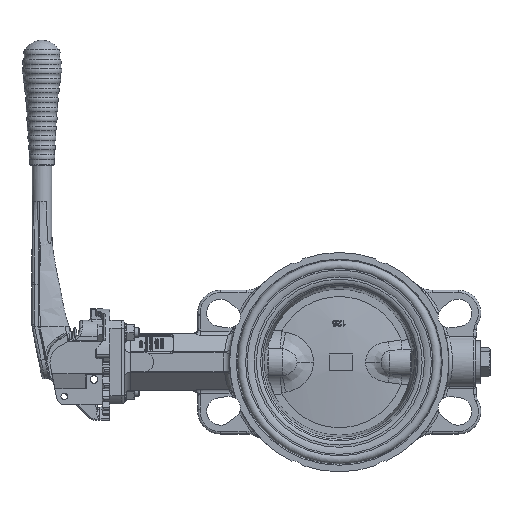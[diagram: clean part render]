
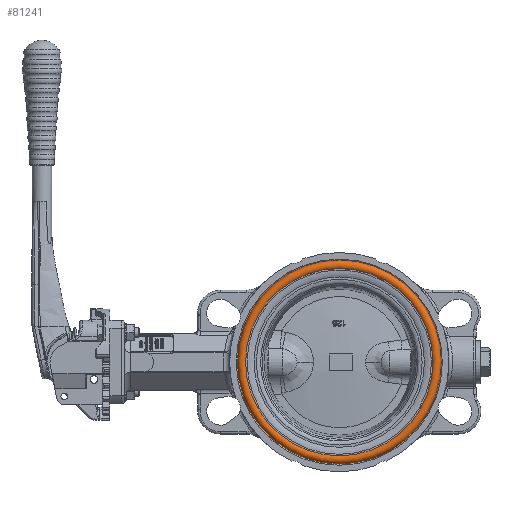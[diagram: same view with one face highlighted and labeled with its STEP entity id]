
A CAD part, left-side view. The second image highlights one B-rep face of the part: STEP entity #81241.
In plain terms, the highlighted toroidal (fillet/blend) face has major radius 81.505 mm and minor radius 4 mm.
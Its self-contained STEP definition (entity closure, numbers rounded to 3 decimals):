
#81134=CARTESIAN_POINT('',(-26.945,0.,-85.5));
#81135=VERTEX_POINT('',#81134);
#81136=CARTESIAN_POINT('',(-26.945,0.,0.));
#81137=DIRECTION('',(1.0,0.0,0.0));
#81138=DIRECTION('',(0.0,0.0,-1.0));
#81139=AXIS2_PLACEMENT_3D('',#81136,#81137,#81138);
#81140=CIRCLE('',#81139,85.5);
#81141=EDGE_CURVE('',#81135,#81135,#81140,.T.);
#81215=CARTESIAN_POINT('',(-29.5,0.,-78.6));
#81216=VERTEX_POINT('',#81215);
#81217=CARTESIAN_POINT('',(-29.5,0.,0.));
#81218=DIRECTION('',(1.0,0.0,0.0));
#81219=DIRECTION('',(0.0,0.0,-1.0));
#81220=AXIS2_PLACEMENT_3D('',#81217,#81218,#81219);
#81221=CIRCLE('',#81220,78.6);
#81222=EDGE_CURVE('',#81216,#81216,#81221,.T.);
#81230=CARTESIAN_POINT('',(-26.75,0.,0.));
#81231=DIRECTION('',(1.,0.0,0.));
#81232=DIRECTION('',(0.0,0.0,-1.0));
#81233=AXIS2_PLACEMENT_3D('',#81230,#81231,#81232);
#81234=TOROIDAL_SURFACE('',#81233,81.505,4.);
#81235=ORIENTED_EDGE('',*,*,#81141,.F.);
#81236=EDGE_LOOP('',(#81235));
#81237=FACE_OUTER_BOUND('',#81236,.T.);
#81238=ORIENTED_EDGE('',*,*,#81222,.T.);
#81239=EDGE_LOOP('',(#81238));
#81240=FACE_BOUND('',#81239,.T.);
#81241=ADVANCED_FACE('',(#81237,#81240),#81234,.T.);
